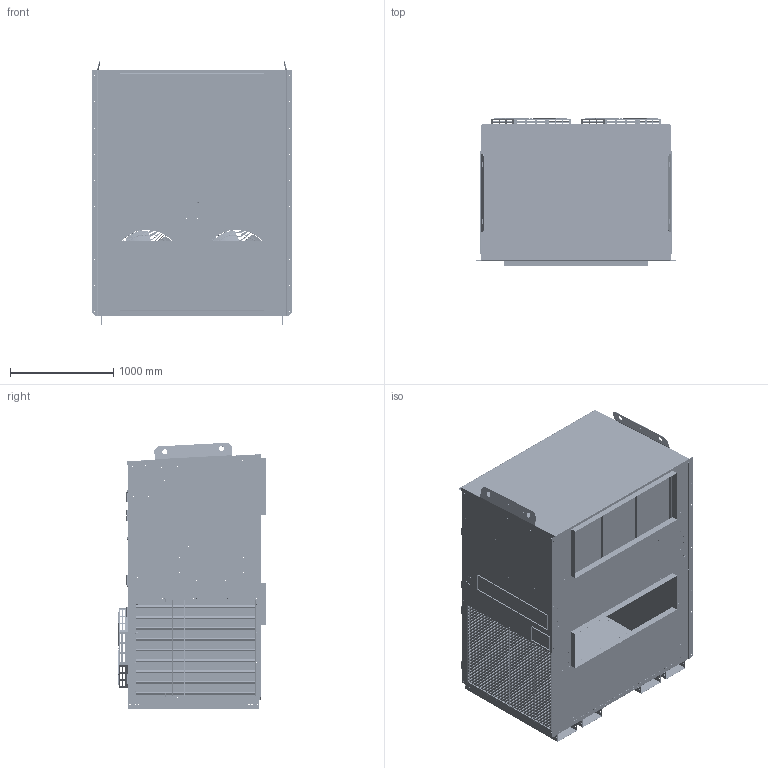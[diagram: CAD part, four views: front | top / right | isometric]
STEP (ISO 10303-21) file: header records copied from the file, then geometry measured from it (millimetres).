
FILE_DESCRIPTION (( 'STEP AP214' ), '1' );
FILE_NAME ('MGA3180 B2 RF NON ECONO.STEP', '2023-03-21T18:20:00', ( '' ), ( '' ), 'SwSTEP 2.0', 'SolidWorks 2022', '' );
FILE_SCHEMA (( 'AUTOMOTIVE_DESIGN' ));
Length unit declared in the file: inch
Products named in the file (48): MD09505; MD09989; ND04240; MD12295; MD12295_MD12295; SML45059X; MD09987; SML23013X; MD09561; SML23003X; 30196_608910; MD09507; MD12292; MGA3180 B2 RF NON ECONO; 02146 RH BOTTOM; MD09457; ND04242; ND03364; MD09504; 90857 SMALL LOOP; MD09518; SML23012X; MD12292_MD12292-IN; MD09986; 02145 LH BOTTOM; MD09982; MD09541; 02145 LH TOP; MD09449; 90857; SML17058X; MD09980; 90857 LARGE LOOP; MD09503; 02146_FLEXIBLE; 90857 BASE; 02146 RH TOP; 60310; MD12293; 81257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
Assembly tree (87 placements, depth 3):
  MGA3180 B2 RF NON ECONO
    MD09449
    MD09457
    MD09503
    MD09504
    MD09505  x3
    MD09507
    MD09518  x4
    MD09541
    MD09560
    MD09561  x2
    MD09563  x2
    MD09978
    MD09980  x2
    MD09982
    MD09983
    MD09986
    MD09987
    MD09989
    MD12292_MD12292-IN
      MD12292
      ND03364
      ND04240
    MD12293
    MD12295_MD12295  x2
      MD12295
      ND04242
    02145  x4
      02145 LH BOTTOM
      02145 LH TOP
    02146_FLEXIBLE  x4
      02146 RH BOTTOM
      02146 RH TOP
    d30144  x2
    30196_608910  x2
    60309
    60310
    81257  x3
    90857  x2
      90857 BASE
      90857 SMALL LOOP
      90857 LARGE LOOP
    91039  x6
    SML23003X  x2
    SML23012X
    SML23013X
    SML45059X  x2
    SML17058X  x2
Bounding box: 1930.4 x 1437.98 x 2582.49 mm (x, y, z)
Volume: 287852838.7 mm3; surface area: 66143804.5 mm2
Topology: 375 solids, 429 shells, 10732 faces, 27762 edges, 17460 vertices
Faces by surface type: cylinder 4921, plane 4365, bspline 568, cone 492, torus 222, sphere 164
Entity records: 340113 total; most frequent: CARTESIAN_POINT 161070, DIRECTION 34339, ORIENTED_EDGE 33204, EDGE_CURVE 16632, AXIS2_PLACEMENT_3D 13036, VERTEX_POINT 10525, EDGE_LOOP 8998, LINE 8267
